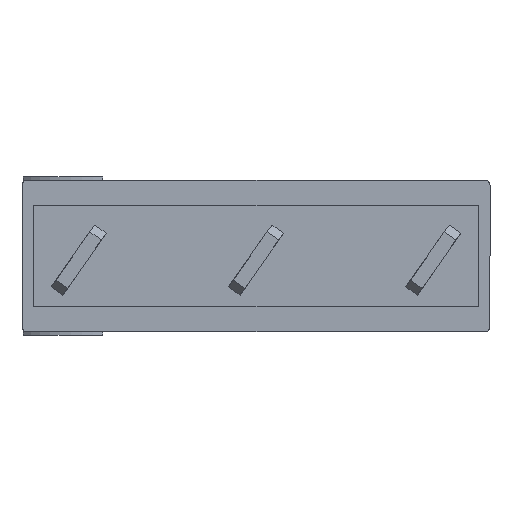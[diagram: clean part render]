
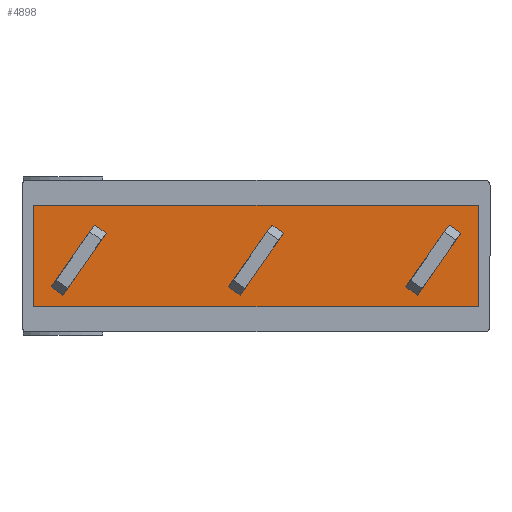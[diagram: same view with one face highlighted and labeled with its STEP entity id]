
A CAD part, front view. The second image highlights one B-rep face of the part: STEP entity #4898.
In plain terms, the highlighted planar face has unit normal (0, -1, 0).
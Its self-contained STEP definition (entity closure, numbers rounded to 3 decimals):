
#73=CARTESIAN_POINT('',(13.412,-2.1,0.966));
#74=VERTEX_POINT('',#73);
#75=CARTESIAN_POINT('',(12.92,-2.1,1.311));
#76=VERTEX_POINT('',#75);
#77=CARTESIAN_POINT('',(13.412,-2.1,0.966));
#78=DIRECTION('',(-0.819,0.0,0.574));
#79=VECTOR('',#78,0.6);
#80=LINE('',#77,#79);
#81=EDGE_CURVE('',#74,#76,#80,.T.);
#113=CARTESIAN_POINT('',(11.085,-2.1,-1.311));
#114=VERTEX_POINT('',#113);
#115=CARTESIAN_POINT('',(12.92,-2.1,1.311));
#116=DIRECTION('',(-0.574,0.0,-0.819));
#117=VECTOR('',#116,3.2);
#118=LINE('',#115,#117);
#119=EDGE_CURVE('',#76,#114,#118,.T.);
#171=CARTESIAN_POINT('',(5.912,-2.1,0.966));
#172=VERTEX_POINT('',#171);
#173=CARTESIAN_POINT('',(5.42,-2.1,1.311));
#174=VERTEX_POINT('',#173);
#175=CARTESIAN_POINT('',(5.912,-2.1,0.966));
#176=DIRECTION('',(-0.819,0.0,0.574));
#177=VECTOR('',#176,0.6);
#178=LINE('',#175,#177);
#179=EDGE_CURVE('',#172,#174,#178,.T.);
#211=CARTESIAN_POINT('',(3.585,-2.1,-1.311));
#212=VERTEX_POINT('',#211);
#213=CARTESIAN_POINT('',(5.42,-2.1,1.311));
#214=DIRECTION('',(-0.574,0.0,-0.819));
#215=VECTOR('',#214,3.2);
#216=LINE('',#213,#215);
#217=EDGE_CURVE('',#174,#212,#216,.T.);
#269=CARTESIAN_POINT('',(-1.588,-2.1,0.966));
#270=VERTEX_POINT('',#269);
#271=CARTESIAN_POINT('',(-2.08,-2.1,1.311));
#272=VERTEX_POINT('',#271);
#273=CARTESIAN_POINT('',(-1.588,-2.1,0.966));
#274=DIRECTION('',(-0.819,0.0,0.574));
#275=VECTOR('',#274,0.6);
#276=LINE('',#273,#275);
#277=EDGE_CURVE('',#270,#272,#276,.T.);
#309=CARTESIAN_POINT('',(-3.915,-2.1,-1.311));
#310=VERTEX_POINT('',#309);
#311=CARTESIAN_POINT('',(-2.08,-2.1,1.311));
#312=DIRECTION('',(-0.574,0.0,-0.819));
#313=VECTOR('',#312,3.2);
#314=LINE('',#311,#313);
#315=EDGE_CURVE('',#272,#310,#314,.T.);
#367=CARTESIAN_POINT('',(11.576,-2.1,-1.655));
#368=VERTEX_POINT('',#367);
#369=CARTESIAN_POINT('',(11.085,-2.1,-1.311));
#370=DIRECTION('',(0.819,0.0,-0.574));
#371=VECTOR('',#370,0.6);
#372=LINE('',#369,#371);
#373=EDGE_CURVE('',#114,#368,#372,.T.);
#398=CARTESIAN_POINT('',(11.576,-2.1,-1.655));
#399=DIRECTION('',(0.574,0.0,0.819));
#400=VECTOR('',#399,3.2);
#401=LINE('',#398,#400);
#402=EDGE_CURVE('',#368,#74,#401,.T.);
#505=CARTESIAN_POINT('',(4.076,-2.1,-1.655));
#506=VERTEX_POINT('',#505);
#507=CARTESIAN_POINT('',(3.585,-2.1,-1.311));
#508=DIRECTION('',(0.819,0.0,-0.574));
#509=VECTOR('',#508,0.6);
#510=LINE('',#507,#509);
#511=EDGE_CURVE('',#212,#506,#510,.T.);
#536=CARTESIAN_POINT('',(4.076,-2.1,-1.655));
#537=DIRECTION('',(0.574,0.0,0.819));
#538=VECTOR('',#537,3.2);
#539=LINE('',#536,#538);
#540=EDGE_CURVE('',#506,#172,#539,.T.);
#643=CARTESIAN_POINT('',(-3.424,-2.1,-1.655));
#644=VERTEX_POINT('',#643);
#645=CARTESIAN_POINT('',(-3.915,-2.1,-1.311));
#646=DIRECTION('',(0.819,0.0,-0.574));
#647=VECTOR('',#646,0.6);
#648=LINE('',#645,#647);
#649=EDGE_CURVE('',#310,#644,#648,.T.);
#674=CARTESIAN_POINT('',(-3.424,-2.1,-1.655));
#675=DIRECTION('',(0.574,0.0,0.819));
#676=VECTOR('',#675,3.2);
#677=LINE('',#674,#676);
#678=EDGE_CURVE('',#644,#270,#677,.T.);
#4778=CARTESIAN_POINT('',(14.15,-2.1,2.15));
#4779=VERTEX_POINT('',#4778);
#4780=CARTESIAN_POINT('',(14.15,-2.1,-2.15));
#4781=VERTEX_POINT('',#4780);
#4782=CARTESIAN_POINT('',(14.15,-2.1,2.15));
#4783=DIRECTION('',(0.0,0.0,-1.0));
#4784=VECTOR('',#4783,4.3);
#4785=LINE('',#4782,#4784);
#4786=EDGE_CURVE('',#4779,#4781,#4785,.T.);
#4809=CARTESIAN_POINT('',(-4.65,-2.1,-2.15));
#4810=VERTEX_POINT('',#4809);
#4811=CARTESIAN_POINT('',(14.15,-2.1,-2.15));
#4812=DIRECTION('',(-1.0,0.0,0.0));
#4813=VECTOR('',#4812,18.8);
#4814=LINE('',#4811,#4813);
#4815=EDGE_CURVE('',#4781,#4810,#4814,.T.);
#4833=CARTESIAN_POINT('',(-4.65,-2.1,2.15));
#4834=VERTEX_POINT('',#4833);
#4835=CARTESIAN_POINT('',(-4.65,-2.1,-2.15));
#4836=DIRECTION('',(0.0,0.0,1.0));
#4837=VECTOR('',#4836,4.3);
#4838=LINE('',#4835,#4837);
#4839=EDGE_CURVE('',#4810,#4834,#4838,.T.);
#4857=CARTESIAN_POINT('',(-4.65,-2.1,2.15));
#4858=DIRECTION('',(1.0,0.0,0.0));
#4859=VECTOR('',#4858,18.8);
#4860=LINE('',#4857,#4859);
#4861=EDGE_CURVE('',#4834,#4779,#4860,.T.);
#4869=CARTESIAN_POINT('',(4.75,-2.1,0.));
#4870=DIRECTION('',(0.0,1.0,0.0));
#4871=DIRECTION('',(0.0,0.0,1.0));
#4872=AXIS2_PLACEMENT_3D('',#4869,#4870,#4871);
#4873=PLANE('',#4872);
#4874=ORIENTED_EDGE('',*,*,#4786,.F.);
#4875=ORIENTED_EDGE('',*,*,#4861,.F.);
#4876=ORIENTED_EDGE('',*,*,#4839,.F.);
#4877=ORIENTED_EDGE('',*,*,#4815,.F.);
#4878=EDGE_LOOP('',(#4874,#4875,#4876,#4877));
#4879=FACE_OUTER_BOUND('',#4878,.T.);
#4880=ORIENTED_EDGE('',*,*,#373,.F.);
#4881=ORIENTED_EDGE('',*,*,#119,.F.);
#4882=ORIENTED_EDGE('',*,*,#81,.F.);
#4883=ORIENTED_EDGE('',*,*,#402,.F.);
#4884=EDGE_LOOP('',(#4880,#4881,#4882,#4883));
#4885=FACE_BOUND('',#4884,.T.);
#4886=ORIENTED_EDGE('',*,*,#511,.F.);
#4887=ORIENTED_EDGE('',*,*,#217,.F.);
#4888=ORIENTED_EDGE('',*,*,#179,.F.);
#4889=ORIENTED_EDGE('',*,*,#540,.F.);
#4890=EDGE_LOOP('',(#4886,#4887,#4888,#4889));
#4891=FACE_BOUND('',#4890,.T.);
#4892=ORIENTED_EDGE('',*,*,#649,.F.);
#4893=ORIENTED_EDGE('',*,*,#315,.F.);
#4894=ORIENTED_EDGE('',*,*,#277,.F.);
#4895=ORIENTED_EDGE('',*,*,#678,.F.);
#4896=EDGE_LOOP('',(#4892,#4893,#4894,#4895));
#4897=FACE_BOUND('',#4896,.T.);
#4898=ADVANCED_FACE('',(#4879,#4885,#4891,#4897),#4873,.F.);
